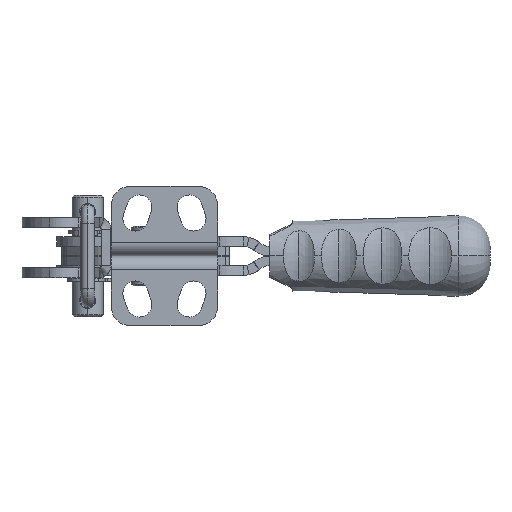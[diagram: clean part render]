
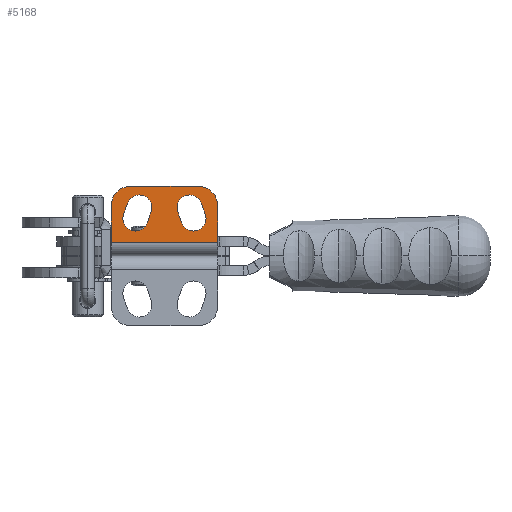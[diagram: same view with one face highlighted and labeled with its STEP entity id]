
A CAD part, front view. The second image highlights one B-rep face of the part: STEP entity #5168.
In plain terms, the highlighted planar face has unit normal (0, -1, 0).
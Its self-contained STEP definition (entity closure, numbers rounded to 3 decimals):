
#306 = DIRECTION ( 'NONE',  ( 0., 0., 1. ) ) ;
#521 = DIRECTION ( 'NONE',  ( 0.333, 0., 0.943 ) ) ;
#576 = AXIS2_PLACEMENT_3D ( 'NONE', #6115, #17679, #16261 ) ;
#578 = ORIENTED_EDGE ( 'NONE', *, *, #8463, .T. ) ;
#991 = ORIENTED_EDGE ( 'NONE', *, *, #8225, .F. ) ;
#1034 = VECTOR ( 'NONE', #8437, 1000. ) ;
#1053 = LINE ( 'NONE', #15480, #6786 ) ;
#1226 = DIRECTION ( 'NONE',  ( 1., 0., 0. ) ) ;
#1315 = CARTESIAN_POINT ( 'NONE',  ( 18.186, -3.829, 6.117 ) ) ;
#1429 = DIRECTION ( 'NONE',  ( -0.333, 0., -0.943 ) ) ;
#1463 = EDGE_LOOP ( 'NONE', ( #16509, #4592, #7515, #10706, #13502 ) ) ;
#1477 = EDGE_CURVE ( 'NONE', #3404, #7342, #2777, .T. ) ;
#1479 = CIRCLE ( 'NONE', #14847, 5. ) ;
#1655 = DIRECTION ( 'NONE',  ( 0., 0., 1. ) ) ;
#1667 = DIRECTION ( 'NONE',  ( 0., 1., 0. ) ) ;
#1733 = FACE_OUTER_BOUND ( 'NONE', #16249, .T. ) ;
#1734 = VERTEX_POINT ( 'NONE', #12483 ) ;
#1901 = VERTEX_POINT ( 'NONE', #15442 ) ;
#2210 = DIRECTION ( 'NONE',  ( 0., 1., 0. ) ) ;
#2777 = LINE ( 'NONE', #8754, #4709 ) ;
#2811 = DIRECTION ( 'NONE',  ( 1., 0., 0. ) ) ;
#2991 = CARTESIAN_POINT ( 'NONE',  ( 27.5, -3.829, 10.529 ) ) ;
#3359 = DIRECTION ( 'NONE',  ( 0., 1., 0. ) ) ;
#3404 = VERTEX_POINT ( 'NONE', #11831 ) ;
#3691 = AXIS2_PLACEMENT_3D ( 'NONE', #12907, #3359, #5669 ) ;
#4154 = AXIS2_PLACEMENT_3D ( 'NONE', #12495, #2210, #12391 ) ;
#4514 = LINE ( 'NONE', #5950, #4550 ) ;
#4543 = DIRECTION ( 'NONE',  ( 0., 0., -1. ) ) ;
#4547 = CIRCLE ( 'NONE', #3691, 3.25 ) ;
#4550 = VECTOR ( 'NONE', #1655, 1000. ) ;
#4592 = ORIENTED_EDGE ( 'NONE', *, *, #7083, .T. ) ;
#4617 = DIRECTION ( 'NONE',  ( 0., 0., 1. ) ) ;
#4709 = VECTOR ( 'NONE', #1429, 1000. ) ;
#4758 = AXIS2_PLACEMENT_3D ( 'NONE', #9328, #10539, #18138 ) ;
#5136 = CIRCLE ( 'NONE', #7553, 3.25 ) ;
#5168 = ADVANCED_FACE ( 'NONE', ( #8972, #14752, #1733 ), #7541, .F. ) ;
#5201 = VERTEX_POINT ( 'NONE', #1315 ) ;
#5304 = CARTESIAN_POINT ( 'NONE',  ( 4.186, -3.829, 11.113 ) ) ;
#5669 = DIRECTION ( 'NONE',  ( 0., 0., 1. ) ) ;
#5883 = CARTESIAN_POINT ( 'NONE',  ( 27.5, -3.829, 15.529 ) ) ;
#5950 = CARTESIAN_POINT ( 'NONE',  ( 0., -3.829, -2.471 ) ) ;
#6030 = CIRCLE ( 'NONE', #6995, 3.25 ) ;
#6115 = CARTESIAN_POINT ( 'NONE',  ( 9.2, -3.829, -15.971 ) ) ;
#6122 = VERTEX_POINT ( 'NONE', #11139 ) ;
#6253 = DIRECTION ( 'NONE',  ( -0.333, 0., 0.943 ) ) ;
#6309 = CARTESIAN_POINT ( 'NONE',  ( 7.25, -3.829, 10.029 ) ) ;
#6416 = VECTOR ( 'NONE', #6253, 1000. ) ;
#6730 = EDGE_CURVE ( 'NONE', #5201, #1901, #7874, .T. ) ;
#6786 = VECTOR ( 'NONE', #1226, 1000. ) ;
#6995 = AXIS2_PLACEMENT_3D ( 'NONE', #6309, #11907, #17676 ) ;
#7083 = EDGE_CURVE ( 'NONE', #16142, #15160, #4547, .T. ) ;
#7100 = LINE ( 'NONE', #12634, #1034 ) ;
#7233 = CARTESIAN_POINT ( 'NONE',  ( 9.2, -3.829, 1. ) ) ;
#7318 = VERTEX_POINT ( 'NONE', #8574 ) ;
#7342 = VERTEX_POINT ( 'NONE', #15587 ) ;
#7361 = EDGE_CURVE ( 'NONE', #1901, #1734, #15187, .T. ) ;
#7465 = LINE ( 'NONE', #10490, #12340 ) ;
#7515 = ORIENTED_EDGE ( 'NONE', *, *, #12572, .T. ) ;
#7541 = PLANE ( 'NONE',  #576 ) ;
#7553 = AXIS2_PLACEMENT_3D ( 'NONE', #9003, #1667, #4617 ) ;
#7590 = CARTESIAN_POINT ( 'NONE',  ( 22.5, -3.829, 15.529 ) ) ;
#7874 = LINE ( 'NONE', #10902, #6416 ) ;
#7878 = EDGE_CURVE ( 'NONE', #6122, #8229, #1053, .T. ) ;
#7890 = VERTEX_POINT ( 'NONE', #17450 ) ;
#8039 = ORIENTED_EDGE ( 'NONE', *, *, #11472, .T. ) ;
#8051 = ORIENTED_EDGE ( 'NONE', *, *, #7878, .F. ) ;
#8225 = EDGE_CURVE ( 'NONE', #13384, #9189, #11865, .T. ) ;
#8229 = VERTEX_POINT ( 'NONE', #7590 ) ;
#8437 = DIRECTION ( 'NONE',  ( 0.333, 0., -0.943 ) ) ;
#8463 = EDGE_CURVE ( 'NONE', #10223, #7890, #7100, .T. ) ;
#8574 = CARTESIAN_POINT ( 'NONE',  ( 3.186, -3.829, 8.284 ) ) ;
#8669 = DIRECTION ( 'NONE',  ( 0., 0., 1. ) ) ;
#8754 = CARTESIAN_POINT ( 'NONE',  ( 2.36, -3.829, -13.552 ) ) ;
#8935 = LINE ( 'NONE', #7233, #16976 ) ;
#8972 = FACE_BOUND ( 'NONE', #17827, .T. ) ;
#9003 = CARTESIAN_POINT ( 'NONE',  ( 21.25, -3.829, 7.201 ) ) ;
#9189 = VERTEX_POINT ( 'NONE', #12213 ) ;
#9328 = CARTESIAN_POINT ( 'NONE',  ( 5., -3.829, 10.529 ) ) ;
#9441 = ORIENTED_EDGE ( 'NONE', *, *, #10821, .T. ) ;
#9583 = VERTEX_POINT ( 'NONE', #18225 ) ;
#9724 = CARTESIAN_POINT ( 'NONE',  ( 20.25, -3.829, 10.029 ) ) ;
#9742 = EDGE_CURVE ( 'NONE', #7318, #16142, #7465, .T. ) ;
#9814 = VECTOR ( 'NONE', #4543, 1000. ) ;
#10223 = VERTEX_POINT ( 'NONE', #16250 ) ;
#10430 = EDGE_CURVE ( 'NONE', #1734, #10223, #11733, .T. ) ;
#10490 = CARTESIAN_POINT ( 'NONE',  ( -3.768, -3.829, -11.386 ) ) ;
#10539 = DIRECTION ( 'NONE',  ( 0., -1., 0. ) ) ;
#10706 = ORIENTED_EDGE ( 'NONE', *, *, #1477, .T. ) ;
#10821 = EDGE_CURVE ( 'NONE', #6122, #9583, #12976, .T. ) ;
#10902 = CARTESIAN_POINT ( 'NONE',  ( 24.129, -3.829, -10.693 ) ) ;
#11139 = CARTESIAN_POINT ( 'NONE',  ( 5., -3.829, 15.529 ) ) ;
#11173 = ORIENTED_EDGE ( 'NONE', *, *, #13806, .F. ) ;
#11325 = DIRECTION ( 'NONE',  ( 0., 1., 0. ) ) ;
#11472 = EDGE_CURVE ( 'NONE', #13384, #8229, #1479, .T. ) ;
#11733 = CIRCLE ( 'NONE', #4154, 3.25 ) ;
#11831 = CARTESIAN_POINT ( 'NONE',  ( 10.314, -3.829, 8.946 ) ) ;
#11865 = LINE ( 'NONE', #5883, #9814 ) ;
#11907 = DIRECTION ( 'NONE',  ( 0., 1., 0. ) ) ;
#12213 = CARTESIAN_POINT ( 'NONE',  ( 27.5, -3.829, 1. ) ) ;
#12340 = VECTOR ( 'NONE', #521, 1000. ) ;
#12391 = DIRECTION ( 'NONE',  ( 0., 0., 1. ) ) ;
#12465 = ORIENTED_EDGE ( 'NONE', *, *, #7361, .T. ) ;
#12483 = CARTESIAN_POINT ( 'NONE',  ( 20.25, -3.829, 13.279 ) ) ;
#12495 = CARTESIAN_POINT ( 'NONE',  ( 20.25, -3.829, 10.029 ) ) ;
#12572 = EDGE_CURVE ( 'NONE', #15160, #3404, #6030, .T. ) ;
#12634 = CARTESIAN_POINT ( 'NONE',  ( 30.257, -3.829, -8.526 ) ) ;
#12907 = CARTESIAN_POINT ( 'NONE',  ( 7.25, -3.829, 10.029 ) ) ;
#12976 = CIRCLE ( 'NONE', #4758, 5. ) ;
#13040 = DIRECTION ( 'NONE',  ( -1., 0., 0. ) ) ;
#13222 = EDGE_CURVE ( 'NONE', #7890, #5201, #5136, .T. ) ;
#13384 = VERTEX_POINT ( 'NONE', #2991 ) ;
#13502 = ORIENTED_EDGE ( 'NONE', *, *, #17709, .T. ) ;
#13804 = ORIENTED_EDGE ( 'NONE', *, *, #15549, .F. ) ;
#13806 = EDGE_CURVE ( 'NONE', #9189, #14415, #8935, .T. ) ;
#13952 = CARTESIAN_POINT ( 'NONE',  ( 0., -3.829, 1. ) ) ;
#14100 = CIRCLE ( 'NONE', #16184, 3.25 ) ;
#14415 = VERTEX_POINT ( 'NONE', #13952 ) ;
#14752 = FACE_BOUND ( 'NONE', #1463, .T. ) ;
#14847 = AXIS2_PLACEMENT_3D ( 'NONE', #17233, #17419, #2811 ) ;
#14932 = CARTESIAN_POINT ( 'NONE',  ( 7.25, -3.829, 13.279 ) ) ;
#15160 = VERTEX_POINT ( 'NONE', #14932 ) ;
#15187 = CIRCLE ( 'NONE', #17590, 3.25 ) ;
#15442 = CARTESIAN_POINT ( 'NONE',  ( 17.186, -3.829, 8.946 ) ) ;
#15480 = CARTESIAN_POINT ( 'NONE',  ( 0., -3.829, 15.529 ) ) ;
#15549 = EDGE_CURVE ( 'NONE', #14415, #9583, #4514, .T. ) ;
#15587 = CARTESIAN_POINT ( 'NONE',  ( 9.314, -3.829, 6.117 ) ) ;
#16142 = VERTEX_POINT ( 'NONE', #5304 ) ;
#16184 = AXIS2_PLACEMENT_3D ( 'NONE', #16251, #18572, #306 ) ;
#16249 = EDGE_LOOP ( 'NONE', ( #11173, #991, #8039, #8051, #9441, #13804 ) ) ;
#16250 = CARTESIAN_POINT ( 'NONE',  ( 23.314, -3.829, 11.113 ) ) ;
#16251 = CARTESIAN_POINT ( 'NONE',  ( 6.25, -3.829, 7.201 ) ) ;
#16261 = DIRECTION ( 'NONE',  ( 1., 0., 0. ) ) ;
#16509 = ORIENTED_EDGE ( 'NONE', *, *, #9742, .T. ) ;
#16668 = ORIENTED_EDGE ( 'NONE', *, *, #13222, .T. ) ;
#16976 = VECTOR ( 'NONE', #13040, 1000. ) ;
#17233 = CARTESIAN_POINT ( 'NONE',  ( 22.5, -3.829, 10.529 ) ) ;
#17419 = DIRECTION ( 'NONE',  ( 0., -1., 0. ) ) ;
#17450 = CARTESIAN_POINT ( 'NONE',  ( 24.314, -3.829, 8.284 ) ) ;
#17590 = AXIS2_PLACEMENT_3D ( 'NONE', #9724, #11325, #8669 ) ;
#17676 = DIRECTION ( 'NONE',  ( 0., 0., 1. ) ) ;
#17679 = DIRECTION ( 'NONE',  ( 0., 1., 0. ) ) ;
#17709 = EDGE_CURVE ( 'NONE', #7342, #7318, #14100, .T. ) ;
#17748 = ORIENTED_EDGE ( 'NONE', *, *, #10430, .T. ) ;
#17827 = EDGE_LOOP ( 'NONE', ( #17897, #12465, #17748, #578, #16668 ) ) ;
#17897 = ORIENTED_EDGE ( 'NONE', *, *, #6730, .T. ) ;
#18138 = DIRECTION ( 'NONE',  ( 1., 0., 0. ) ) ;
#18225 = CARTESIAN_POINT ( 'NONE',  ( 0., -3.829, 10.529 ) ) ;
#18572 = DIRECTION ( 'NONE',  ( 0., 1., 0. ) ) ;
